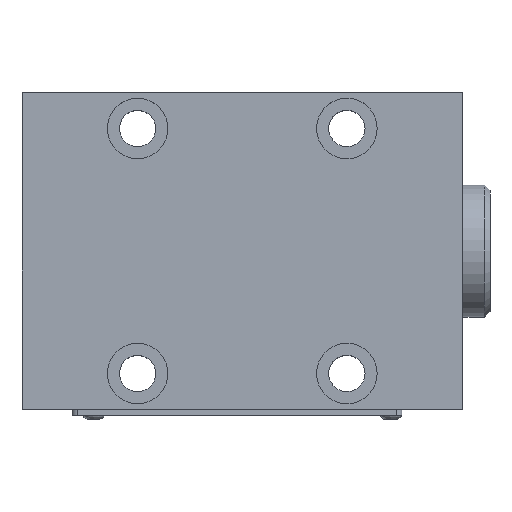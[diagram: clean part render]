
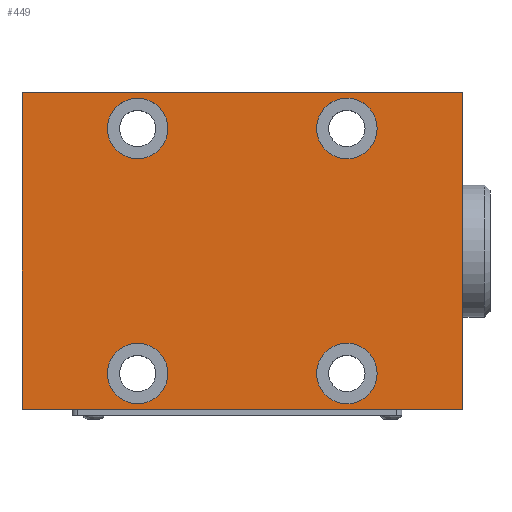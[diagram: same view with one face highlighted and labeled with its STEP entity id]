
A CAD part, top view. The second image highlights one B-rep face of the part: STEP entity #449.
In plain terms, the highlighted planar face has unit normal (0, 0, 1).
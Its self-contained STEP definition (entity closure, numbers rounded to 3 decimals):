
#128=PLANE('',#1448);
#175=LINE('',#2075,#236);
#176=LINE('',#2078,#237);
#177=LINE('',#2080,#238);
#178=LINE('',#2082,#239);
#236=VECTOR('',#1626,1.);
#237=VECTOR('',#1627,1.);
#238=VECTOR('',#1628,1.);
#239=VECTOR('',#1629,1.);
#332=FACE_BOUND('',#589,.T.);
#333=FACE_BOUND('',#590,.T.);
#334=FACE_BOUND('',#591,.T.);
#335=FACE_BOUND('',#592,.T.);
#336=FACE_BOUND('',#593,.T.);
#449=ADVANCED_FACE('',(#332,#333,#334,#335,#336),#128,.T.);
#589=EDGE_LOOP('',(#773));
#590=EDGE_LOOP('',(#774));
#591=EDGE_LOOP('',(#775,#776,#777,#778));
#592=EDGE_LOOP('',(#779));
#593=EDGE_LOOP('',(#780));
#773=ORIENTED_EDGE('',*,*,#1213,.T.);
#774=ORIENTED_EDGE('',*,*,#1214,.T.);
#775=ORIENTED_EDGE('',*,*,#1215,.T.);
#776=ORIENTED_EDGE('',*,*,#1216,.T.);
#777=ORIENTED_EDGE('',*,*,#1217,.T.);
#778=ORIENTED_EDGE('',*,*,#1218,.T.);
#779=ORIENTED_EDGE('',*,*,#1219,.T.);
#780=ORIENTED_EDGE('',*,*,#1220,.T.);
#1085=VERTEX_POINT('',#2072);
#1086=VERTEX_POINT('',#2074);
#1087=VERTEX_POINT('',#2076);
#1088=VERTEX_POINT('',#2077);
#1089=VERTEX_POINT('',#2079);
#1090=VERTEX_POINT('',#2081);
#1091=VERTEX_POINT('',#2084);
#1092=VERTEX_POINT('',#2086);
#1213=EDGE_CURVE('',#1085,#1085,#1364,.T.);
#1214=EDGE_CURVE('',#1086,#1086,#1365,.T.);
#1215=EDGE_CURVE('',#1087,#1088,#175,.T.);
#1216=EDGE_CURVE('',#1088,#1089,#176,.T.);
#1217=EDGE_CURVE('',#1089,#1090,#177,.T.);
#1218=EDGE_CURVE('',#1090,#1087,#178,.T.);
#1219=EDGE_CURVE('',#1091,#1091,#1366,.T.);
#1220=EDGE_CURVE('',#1092,#1092,#1367,.T.);
#1364=CIRCLE('',#1444,5.5);
#1365=CIRCLE('',#1445,5.5);
#1366=CIRCLE('',#1446,5.5);
#1367=CIRCLE('',#1447,5.5);
#1444=AXIS2_PLACEMENT_3D('',#2071,#1622,#1623);
#1445=AXIS2_PLACEMENT_3D('',#2073,#1624,#1625);
#1446=AXIS2_PLACEMENT_3D('',#2083,#1630,#1631);
#1447=AXIS2_PLACEMENT_3D('',#2085,#1632,#1633);
#1448=AXIS2_PLACEMENT_3D('',#2087,#1634,#1635);
#1622=DIRECTION('',(0.,0.,-1.));
#1623=DIRECTION('',(1.,0.,0.));
#1624=DIRECTION('',(0.,0.,-1.));
#1625=DIRECTION('',(1.,0.,0.));
#1626=DIRECTION('',(0.,1.,0.));
#1627=DIRECTION('',(-1.,0.,0.));
#1628=DIRECTION('',(0.,-1.,0.));
#1629=DIRECTION('',(1.,0.,0.));
#1630=DIRECTION('',(0.,0.,-1.));
#1631=DIRECTION('',(1.,0.,0.));
#1632=DIRECTION('',(0.,0.,-1.));
#1633=DIRECTION('',(1.,0.,0.));
#1634=DIRECTION('',(0.,0.,1.));
#1635=DIRECTION('',(-1.,0.,0.));
#2071=CARTESIAN_POINT('',(-39.633,21.543,32.));
#2072=CARTESIAN_POINT('',(-34.133,21.543,32.));
#2073=CARTESIAN_POINT('',(-77.633,66.043,32.));
#2074=CARTESIAN_POINT('',(-72.133,66.043,32.));
#2075=CARTESIAN_POINT('',(-18.633,15.043,32.));
#2076=CARTESIAN_POINT('',(-18.633,15.043,32.));
#2077=CARTESIAN_POINT('',(-18.633,72.543,32.));
#2078=CARTESIAN_POINT('',(-18.633,72.543,32.));
#2079=CARTESIAN_POINT('',(-98.633,72.543,32.));
#2080=CARTESIAN_POINT('',(-98.633,72.543,32.));
#2081=CARTESIAN_POINT('',(-98.633,15.043,32.));
#2082=CARTESIAN_POINT('',(-98.633,15.043,32.));
#2083=CARTESIAN_POINT('',(-39.633,66.043,32.));
#2084=CARTESIAN_POINT('',(-34.133,66.043,32.));
#2085=CARTESIAN_POINT('',(-77.633,21.543,32.));
#2086=CARTESIAN_POINT('',(-72.133,21.543,32.));
#2087=CARTESIAN_POINT('',(-77.633,21.543,32.));
